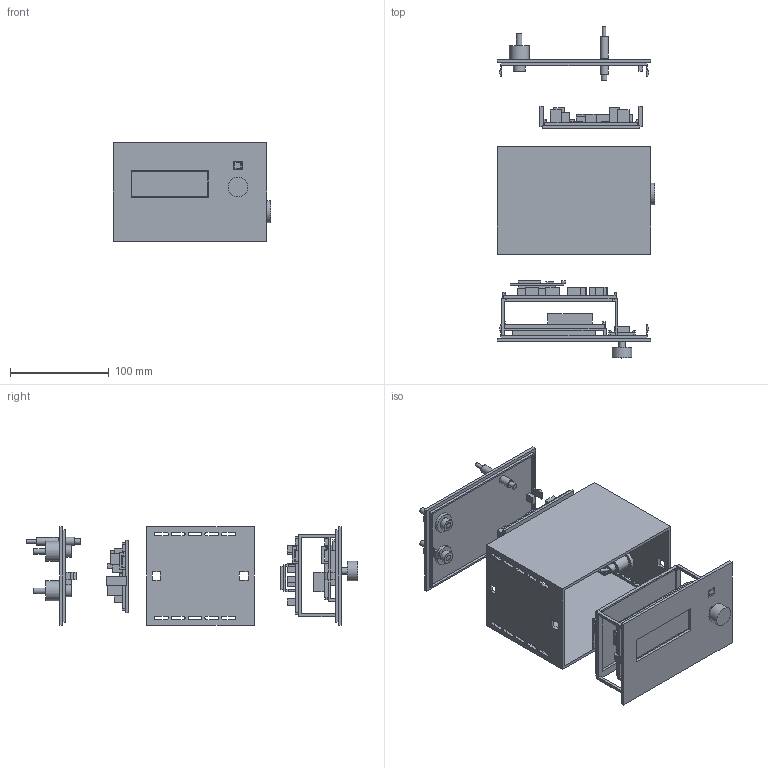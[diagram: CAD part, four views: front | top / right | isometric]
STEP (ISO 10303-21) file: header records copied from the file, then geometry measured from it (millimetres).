
FILE_DESCRIPTION(('Open CASCADE Model'),'2;1');
FILE_NAME('Open CASCADE Shape Model','2026-11-10T19:18:02',('Author'),( 'Open CASCADE'),'Open CASCADE STEP processor 7.8','Open CASCADE 7.8' ,'Unknown');
FILE_SCHEMA(('AUTOMOTIVE_DESIGN { 1 0 10303 214 1 1 1 1 }'));
Length unit declared in the file: millimetre
Products named in the file (105): Exploded_fit_study_v12; 01_Shell_open_front_and_rear; 02_Removable_front_LCD_A; 03_B_removable_carrier; 04_Rear_panel_with_latches; 05_Translucent_optical_insert; 06_BH1750_removable_carrier; BH1750_MODULE_REFERENCE; BH1750_SENSOR_PACKAGE; PCB_A; A_C1_ENVELOPE; A_C2_ENVELOPE; A_C3_ENVELOPE; A_D1_ENVELOPE; A_D2_ENVELOPE; A_J1_ENVELOPE; A_J10_ENVELOPE; A_J2_ENVELOPE; A_J3_ENVELOPE; A_J4_ENVELOPE; A_J5_ENVELOPE; A_J6_ENVELOPE; A_J7_ENVELOPE; A_JP1_ENVELOPE; A_R1_ENVELOPE; A_R2_ENVELOPE; A_R3_ENVELOPE; A_R4_ENVELOPE; A_R5_ENVELOPE; A_R6_ENVELOPE; A_R7_ENVELOPE; A_U2_ENVELOPE; PCB_B; B_C1_ENVELOPE; B_C10_ENVELOPE; B_C2_ENVELOPE; B_C3_ENVELOPE; B_C4_ENVELOPE; B_C5_ENVELOPE; B_C6_ENVELOPE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
Assembly tree (104 placements, depth 2):
  Exploded_fit_study_v12
    01_Shell_open_front_and_rear
    02_Removable_front_LCD_A
    03_B_removable_carrier
    04_Rear_panel_with_latches
    05_Translucent_optical_insert
    06_BH1750_removable_carrier
    BH1750_MODULE_REFERENCE
    BH1750_SENSOR_PACKAGE
    PCB_A
    A_C1_ENVELOPE
    A_C2_ENVELOPE
    A_C3_ENVELOPE
    A_D1_ENVELOPE
    A_D2_ENVELOPE
    A_J1_ENVELOPE
    A_J10_ENVELOPE
    A_J2_ENVELOPE
    A_J3_ENVELOPE
    A_J4_ENVELOPE
    A_J5_ENVELOPE
    A_J6_ENVELOPE
    A_J7_ENVELOPE
    A_JP1_ENVELOPE
    A_R1_ENVELOPE
    A_R2_ENVELOPE
    A_R3_ENVELOPE
    A_R4_ENVELOPE
    A_R5_ENVELOPE
    A_R6_ENVELOPE
    A_R7_ENVELOPE
    A_U2_ENVELOPE
    PCB_B
    B_C1_ENVELOPE
    B_C10_ENVELOPE
    B_C2_ENVELOPE
    B_C3_ENVELOPE
    B_C4_ENVELOPE
    B_C5_ENVELOPE
    B_C6_ENVELOPE
    B_C7_ENVELOPE
    B_C8_ENVELOPE
    B_C9_ENVELOPE
    B_D2_ENVELOPE
    B_D3_ENVELOPE
    B_D4_ENVELOPE
    B_D5_ENVELOPE
    B_D6_ENVELOPE
    B_D7_ENVELOPE
    B_D8_ENVELOPE
    B_D9_ENVELOPE
    B_F1_ENVELOPE
    B_F2_ENVELOPE
    B_J1_ENVELOPE
    B_J10_ENVELOPE
    B_J2_ENVELOPE
    B_J3_ENVELOPE
    B_J4_ENVELOPE
    B_J6_ENVELOPE
    B_J7_ENVELOPE
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Bounding box: 159 x 336 x 100 mm (x, y, z)
Volume: 418321.4 mm3; surface area: 317631.5 mm2
Topology: 104 solids, 105 shells, 1188 faces, 2813 edges, 1872 vertices
Faces by surface type: plane 1112, cylinder 76
Full cylindrical faces by diameter (mm): 3 x3, 3.5 x2, 5.5 x2, 5.6 x1, 6 x2, 6.3 x3, 6.4 x1, 7.2 x1, 8 x2, 8.2 x1, 9 x1, 12 x4, 12.5 x2, 14 x1, 15 x2, 16 x1, 20 x5, 22 x2
Entity records: 72922 total; most frequent: CARTESIAN_POINT 11656, DIRECTION 11175, LINE 8119, VECTOR 8119, ORIENTED_EDGE 5626, PCURVE 5626, DEFINITIONAL_REPRESENTATION 5626, EDGE_CURVE 2813
